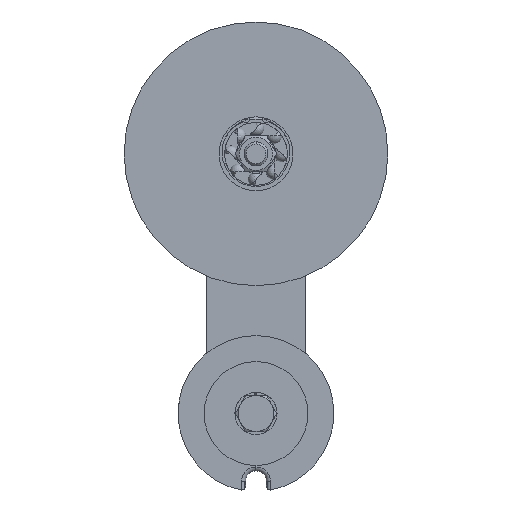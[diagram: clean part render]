
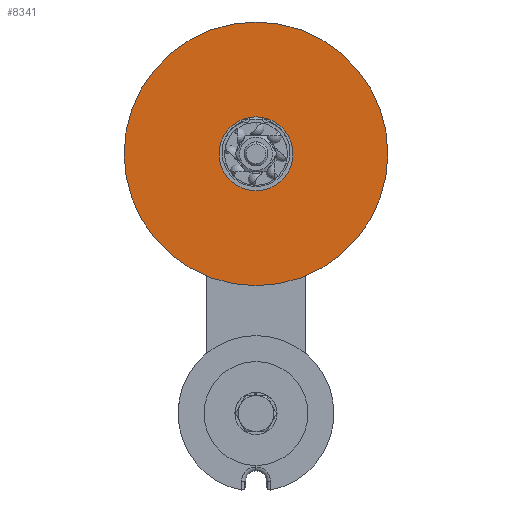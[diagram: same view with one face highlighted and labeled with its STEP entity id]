
A CAD part, front view. The second image highlights one B-rep face of the part: STEP entity #8341.
In plain terms, the highlighted planar face has unit normal (0, -1, 0) as drawn and (1, 0, 0) by its records, which use the part's own axes.
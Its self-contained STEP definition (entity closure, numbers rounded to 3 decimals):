
#7679=CARTESIAN_POINT('',(12.301,0.0,31.851));
#7680=VERTEX_POINT('',#7679);
#7687=CARTESIAN_POINT('',(12.301,0.,-100.149));
#7688=VERTEX_POINT('',#7687);
#7689=CARTESIAN_POINT('',(12.301,0.0,-34.149));
#7690=DIRECTION('',(-1.0,0.0,0.0));
#7691=DIRECTION('',(0.0,0.0,1.0));
#7692=AXIS2_PLACEMENT_3D('',#7689,#7690,#7691);
#7693=CIRCLE('',#7692,66.0);
#7694=EDGE_CURVE('',#7680,#7688,#7693,.T.);
#7734=CARTESIAN_POINT('',(12.301,0.0,-52.649));
#7735=VERTEX_POINT('',#7734);
#7751=CARTESIAN_POINT('',(12.301,0.,-15.649));
#7752=VERTEX_POINT('',#7751);
#7759=CARTESIAN_POINT('',(12.301,0.0,-34.149));
#7760=DIRECTION('',(-1.0,0.0,0.0));
#7761=DIRECTION('',(0.0,0.0,-1.0));
#7762=AXIS2_PLACEMENT_3D('',#7759,#7760,#7761);
#7763=CIRCLE('',#7762,18.5);
#7764=EDGE_CURVE('',#7735,#7752,#7763,.T.);
#8206=CARTESIAN_POINT('',(12.301,0.0,-34.149));
#8207=DIRECTION('',(-1.0,0.0,0.0));
#8208=DIRECTION('',(0.0,0.0,-1.0));
#8209=AXIS2_PLACEMENT_3D('',#8206,#8207,#8208);
#8210=CIRCLE('',#8209,18.5);
#8211=EDGE_CURVE('',#7752,#7735,#8210,.T.);
#8232=CARTESIAN_POINT('',(12.301,0.0,-34.149));
#8233=DIRECTION('',(-1.0,0.0,0.0));
#8234=DIRECTION('',(0.0,0.0,1.0));
#8235=AXIS2_PLACEMENT_3D('',#8232,#8233,#8234);
#8236=CIRCLE('',#8235,66.0);
#8237=EDGE_CURVE('',#7688,#7680,#8236,.T.);
#8328=CARTESIAN_POINT('',(12.301,0.0,-1.149));
#8329=DIRECTION('',(1.0,0.0,0.0));
#8330=DIRECTION('',(0.0,0.0,-1.0));
#8331=AXIS2_PLACEMENT_3D('',#8328,#8329,#8330);
#8332=PLANE('',#8331);
#8333=ORIENTED_EDGE('',*,*,#7694,.F.);
#8334=ORIENTED_EDGE('',*,*,#8237,.F.);
#8335=EDGE_LOOP('',(#8333,#8334));
#8336=FACE_OUTER_BOUND('',#8335,.T.);
#8337=ORIENTED_EDGE('',*,*,#7764,.T.);
#8338=ORIENTED_EDGE('',*,*,#8211,.T.);
#8339=EDGE_LOOP('',(#8337,#8338));
#8340=FACE_BOUND('',#8339,.T.);
#8341=ADVANCED_FACE('',(#8336,#8340),#8332,.T.);
